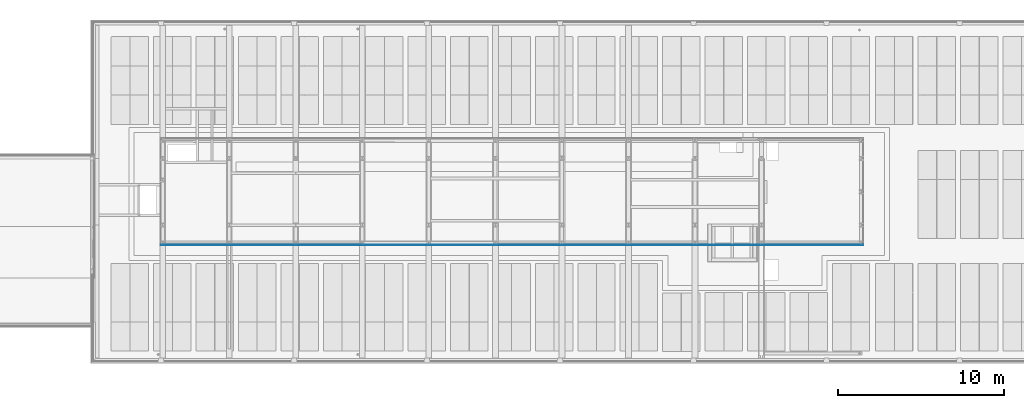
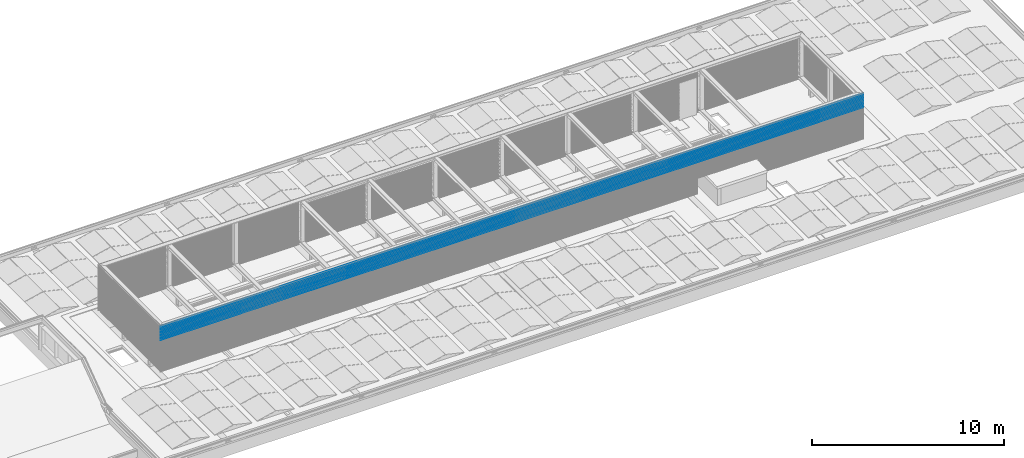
# One storey, part 36 of 63: 12 building element parts, 1 opening, 1 element without a shape of its own.
"""IFC2X3 building model written with IfcOpenShell, lengths in millimetres."""

from ifc_helpers import new_model, entity, si_unit, converted_unit, derived_unit, money_unit, direction, frame, origin_with_axes, place, context, subcontext, project, spatial, faceted_brep, material, type_object, element, aggregate, save


model = new_model("IFC2X3")

# Units and contexts
model_context = context("Model", 3, precision=0.01, world=origin_with_axes(), true_north=direction((0.0, 1.0)))
body_context = subcontext(model_context, "Body", "Model", "MODEL_VIEW")
ifc_project = project(units=[si_unit("LENGTHUNIT", "METRE", prefix="MILLI"), si_unit("AREAUNIT", "SQUARE_METRE"), si_unit("VOLUMEUNIT", "CUBIC_METRE"), converted_unit("PLANEANGLEUNIT", "DEGREE", entity("IfcPlaneAngleMeasure", 0.0174532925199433), si_unit("PLANEANGLEUNIT", "RADIAN"), dimensions=[0, 0, 0, 0, 0, 0, 0]), money_unit("EUR"), converted_unit("TIMEUNIT", "Year", entity("IfcTimeMeasure", 31557600.0), si_unit("TIMEUNIT", "SECOND"), dimensions=[0, 0, 1, 0, 0, 0, 0]), si_unit("MASSUNIT", "GRAM", prefix="KILO"), si_unit("THERMODYNAMICTEMPERATUREUNIT", "DEGREE_CELSIUS"), si_unit("LUMINOUSINTENSITYUNIT", "LUMEN"), si_unit("ENERGYUNIT", "JOULE", prefix="MEGA"), derived_unit("THERMALCONDUCTANCEUNIT", [(si_unit("POWERUNIT", "WATT"), 1), (si_unit("LENGTHUNIT", "METRE"), -1), (si_unit("THERMODYNAMICTEMPERATUREUNIT", "KELVIN"), -1)]), derived_unit("SPECIFICHEATCAPACITYUNIT", [(si_unit("ENERGYUNIT", "JOULE"), 1), (si_unit("MASSUNIT", "GRAM", prefix="KILO"), -1), (si_unit("THERMODYNAMICTEMPERATUREUNIT", "KELVIN"), -1)]), derived_unit("MASSDENSITYUNIT", [(si_unit("MASSUNIT", "GRAM", prefix="KILO"), 1), (si_unit("VOLUMEUNIT", "CUBIC_METRE"), -1)])], contexts=[model_context])

# Site, building, storey
site_placement = place(None, origin_with_axes())
site = spatial("IfcSite", under=ifc_project, at=site_placement, Name="<site naam>", CompositionType="ELEMENT")
building_placement = place(site_placement, origin_with_axes())
building = spatial("IfcBuilding", under=site, at=building_placement, Name="<Naam gebouw>", CompositionType="ELEMENT")
storey_placement = place(building_placement, frame((0.0, 0.0, 12770.0), z_axis=(0.0, 0.0, 1.0), x_axis=(1.0, 0.0, 0.0)))
storey = spatial("IfcBuildingStorey", under=building, at=storey_placement, Name="04 4e verdieping", CompositionType="ELEMENT", Elevation=12770.0)

# Wall, opening, building element parts
wall_type = type_object("IfcWallType", Name="Gevelbeplating golf 18 x 2900", PredefinedType="NOTDEFINED")
wall_placement = place(storey_placement, frame((15871.99992141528, 6781.999921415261, 299.9552842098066), z_axis=(0.0, 0.0, 1.0), x_axis=(1.0, 0.0, 0.0)))
wall = element("IfcWall", 1, at=wall_placement, inside=storey, type_object=wall_type, Name="47_Binnenwand_Gevelbeplating")
opening_placement = place(wall_placement, frame((-15871.99992141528, -6781.999921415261, -13069.95528420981), z_axis=(0.0, 0.0, 1.0), x_axis=(1.0, 0.0, 0.0)))
element("IfcOpeningElement", 2, at=opening_placement, cuts=wall, Name="47_Opening_", context=body_context, shape_type="Brep", body=[
    faceted_brep([(48150.00001112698, 6763.99976424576, 12770.0), (48150.00001112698, 6763.99976424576, 14059.65145375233), (48150.00001112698, 6818.000000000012, 14059.65145375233), (48150.00001112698, 6818.000000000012, 12770.0), (51850.00001112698, 6763.99976424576, 12770.0), (51850.00001112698, 6763.99976424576, 14059.65145375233), (51850.00001112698, 6818.000000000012, 14059.65145375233), (51850.00001112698, 6818.000000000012, 12770.0)], [[[0, 1, 2, 3]], [[0, 4, 5, 1]], [[1, 5, 6, 2]], [[3, 2, 6, 7]], [[4, 0, 3, 7]], [[5, 4, 7, 6]]]),
])
ifc_material = material(Name="gevelafwerking type 3 - Aluminium RAL1036")
building_element_part_1_placement = place(wall_placement, origin_with_axes())
building_element_part_1 = element("IfcBuildingElementPart", 3, at=building_element_part_1_placement, material=ifc_material, Name="gevelafwerking type 3 - Aluminium RAL1036", context=body_context, shape_type="Brep", body=[
    faceted_brep([(42241.45598688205, 15.62920810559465, 2041.315511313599), (14.54417028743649, 15.62920810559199, 2041.315511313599), (14.77512824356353, 15.6999434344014, 2041.634302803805), (16.99992737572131, 17.99994522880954, 2051.999989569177), (42239.00022979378, 17.99994522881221, 2051.999989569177), (42241.22502892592, 15.69994343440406, 2041.634302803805), (8.209467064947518, 9.041528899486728, 2032.575878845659), (8.55516305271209, 9.398062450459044, 2033.048878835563), (42247.44499411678, 9.39806245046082, 2033.048878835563), (42247.79069010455, 9.041528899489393, 2032.575878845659), (14.77512824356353, 14.77514232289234, 2041.634302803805), (8.55516305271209, 8.55519784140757, 2033.048878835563), (16.99992737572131, 16.99994284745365, 2051.999989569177), (42239.00022979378, 16.99994284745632, 2051.999989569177), (42241.22502892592, 14.77514232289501, 2041.634302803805), (42247.44499411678, 8.555197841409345, 2033.048878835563), (2.257284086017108, 3.340064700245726, 2024.431779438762), (2.257284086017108, 2.257303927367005, 2024.431779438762), (42253.74287308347, 2.257303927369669, 2024.431779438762), (42253.74287308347, 3.340064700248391, 2024.431779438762), (2.188157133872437, 3.116423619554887, 2024.112325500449), (42253.81200003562, 3.116423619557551, 2024.112325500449), (-5.474286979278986e-05, 0.9999452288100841, 2014.000019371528), (-5.474286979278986e-05, -5.477119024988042e-05, 2014.000019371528), (42256.00021191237, -5.477118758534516e-05, 2014.000019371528), (42256.00021191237, 0.9999452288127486, 2014.000019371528)], [[[0, 1, 2, 3, 4, 5]], [[6, 7, 1, 0, 8, 9]], [[10, 2, 1, 7, 11]], [[12, 3, 2, 10]], [[4, 3, 12, 13]], [[14, 5, 4, 13]], [[15, 8, 0, 5, 14]], [[11, 7, 6, 16, 17]], [[18, 19, 9, 8, 15]], [[20, 16, 6, 9, 19, 21]], [[14, 10, 11, 15]], [[13, 12, 10, 14]], [[17, 16, 20, 22, 23]], [[15, 11, 17, 18]], [[24, 25, 21, 19, 18]], [[25, 22, 20, 21]], [[24, 23, 22, 25]], [[18, 17, 23, 24]]]),
])
building_element_part_2_placement = place(wall_placement, origin_with_axes())
building_element_part_2 = element("IfcBuildingElementPart", 4, at=building_element_part_2_placement, material=ifc_material, Name="gevelafwerking type 3 - Aluminium RAL1036", context=body_context, shape_type="Brep", body=[
    faceted_brep([(42241.45600631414, 15.6292057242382, 2117.315511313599), (14.54415085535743, 15.62920572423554, 2117.315511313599), (14.77512824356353, 15.69994700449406, 2117.63432962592), (16.99992737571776, 17.99994284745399, 2128.000016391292), (42239.00022979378, 17.99994284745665, 2128.000016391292), (42241.22502892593, 15.69994700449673, 2117.63432962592), (8.209447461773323, 9.041526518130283, 2108.57587884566), (8.55516305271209, 9.398080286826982, 2109.048905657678), (42247.44499411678, 9.398080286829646, 2109.048905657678), (42247.79070970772, 9.041526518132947, 2108.57587884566), (14.77512824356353, 14.77513994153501, 2117.63432962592), (8.55516305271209, 8.555195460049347, 2109.048905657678), (16.99992737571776, 16.99994046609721, 2128.000016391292), (42239.00022979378, 16.99994046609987, 2128.000016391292), (42241.22502892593, 14.77513994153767, 2117.63432962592), (42247.44499411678, 8.555195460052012, 2109.048905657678), (2.257284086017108, 3.340081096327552, 2100.431806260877), (2.257284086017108, 2.257301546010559, 2100.431806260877), (42253.74287308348, 2.257301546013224, 2100.431806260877), (42253.74287308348, 3.340081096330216, 2100.431806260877), (2.188150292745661, 3.116421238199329, 2100.112325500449), (42253.81200687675, 3.116421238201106, 2100.112325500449), (-9.795628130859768e-05, 0.9999428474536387, 2090.000002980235), (-9.795628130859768e-05, -5.715254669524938e-05, 2090.000002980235), (42256.00025512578, -5.715254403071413e-05, 2090.000002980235), (42256.00025512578, 0.9999428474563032, 2090.000002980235)], [[[0, 1, 2, 3, 4, 5]], [[6, 7, 1, 0, 8, 9]], [[10, 2, 1, 7, 11]], [[12, 3, 2, 10]], [[4, 3, 12, 13]], [[14, 5, 4, 13]], [[15, 8, 0, 5, 14]], [[11, 7, 6, 16, 17]], [[18, 19, 9, 8, 15]], [[20, 16, 6, 9, 19, 21]], [[14, 10, 11, 15]], [[13, 12, 10, 14]], [[17, 16, 20, 22, 23]], [[15, 11, 17, 18]], [[24, 25, 21, 19, 18]], [[25, 22, 20, 21]], [[24, 23, 22, 25]], [[18, 17, 23, 24]]]),
])
building_element_part_3_placement = place(wall_placement, origin_with_axes())
building_element_part_3 = element("IfcBuildingElementPart", 5, at=building_element_part_3_placement, material=ifc_material, Name="gevelafwerking type 3 - Aluminium RAL1036", context=body_context, shape_type="Brep", body=[
    faceted_brep([(42241.45598256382, 15.6292009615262, 2269.315511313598), (14.54417460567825, 15.62920096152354, 2269.315511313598), (14.77512824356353, 15.69993496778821, 2269.634296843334), (16.99992737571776, 17.9999380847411, 2279.999983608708), (42239.00022979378, 17.99993808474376, 2279.999983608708), (42241.22502892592, 15.69993496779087, 2269.634296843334), (8.209471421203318, 9.04152175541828, 2260.575878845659), (8.55516305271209, 9.398050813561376, 2261.048872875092), (42247.44499411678, 9.39805081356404, 2261.048872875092), (42247.79068574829, 9.041521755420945, 2260.575878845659), (14.77512824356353, 14.77513517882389, 2269.634296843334), (8.55516305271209, 8.555190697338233, 2261.048872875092), (16.99992737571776, 16.9999357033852, 2279.999983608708), (42239.00022979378, 16.99993570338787, 2279.999983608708), (42241.22502892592, 14.77513517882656, 2269.634296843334), (42247.44499411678, 8.555190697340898, 2261.048872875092), (2.257284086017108, 3.34005338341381, 2252.431773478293), (2.257284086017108, 2.257296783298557, 2252.431773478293), (42253.74287308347, 2.257296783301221, 2252.431773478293), (42253.74287308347, 3.340053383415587, 2252.431773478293), (2.188152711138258, 3.116416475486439, 2252.112325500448), (42253.81199978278, 3.116416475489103, 2252.112325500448), (-9.328071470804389e-05, 0.9999380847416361, 2242.000013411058), (-9.328071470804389e-05, -6.19152586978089e-05, 2242.000013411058), (42256.00025045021, -6.191525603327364e-05, 2242.000013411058), (42256.00025045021, 0.9999380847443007, 2242.000013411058)], [[[0, 1, 2, 3, 4, 5]], [[6, 7, 1, 0, 8, 9]], [[10, 2, 1, 7, 11]], [[12, 3, 2, 10]], [[4, 3, 12, 13]], [[14, 5, 4, 13]], [[15, 8, 0, 5, 14]], [[11, 7, 6, 16, 17]], [[18, 19, 9, 8, 15]], [[20, 16, 6, 9, 19, 21]], [[14, 10, 11, 15]], [[13, 12, 10, 14]], [[17, 16, 20, 22, 23]], [[15, 11, 17, 18]], [[24, 25, 21, 19, 18]], [[25, 22, 20, 21]], [[24, 23, 22, 25]], [[18, 17, 23, 24]]]),
])
building_element_part_4_placement = place(wall_placement, origin_with_axes())
building_element_part_4 = element("IfcBuildingElementPart", 6, at=building_element_part_4_placement, material=ifc_material, Name="gevelafwerking type 3 - Aluminium RAL1036", context=body_context, shape_type="Brep", body=[
    faceted_brep([(42241.45599443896, 15.62920334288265, 2193.315511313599), (14.54416273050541, 15.62920334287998, 2193.315511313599), (14.77512824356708, 15.69994098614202, 2193.634313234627), (16.99992737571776, 17.99994046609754, 2203.999999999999), (42239.00022979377, 17.99994046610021, 2203.999999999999), (42241.22502892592, 15.6999409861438, 2193.634313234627), (8.209459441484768, 9.041524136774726, 2184.575878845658), (8.55516305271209, 9.398065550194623, 2185.048889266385), (42247.44499411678, 9.3980655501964, 2185.048889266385), (42247.79069772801, 9.04152413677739, 2184.575878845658), (14.77512824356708, 14.77513756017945, 2193.634313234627), (8.55516305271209, 8.555193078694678, 2185.048889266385), (16.99992737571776, 16.99993808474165, 2203.999999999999), (42239.00022979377, 16.99993808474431, 2203.999999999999), (42241.22502892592, 14.77513756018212, 2193.634313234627), (42247.44499411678, 8.555193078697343, 2185.048889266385), (2.257284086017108, 3.340067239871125, 2176.431789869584), (2.257284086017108, 2.257299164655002, 2176.431789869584), (42253.74287308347, 2.257299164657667, 2176.431789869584), (42253.74287308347, 3.34006723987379, 2176.431789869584), (2.188153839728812, 3.116418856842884, 2176.112325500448), (42253.81200332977, 3.116418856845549, 2176.112325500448), (-9.795628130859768e-05, 0.9999404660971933, 2165.999986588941), (-9.795628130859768e-05, -5.953390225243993e-05, 2165.999986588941), (42256.00025512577, -5.953389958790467e-05, 2165.999986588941), (42256.00025512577, 0.9999404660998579, 2165.999986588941)], [[[0, 1, 2, 3, 4, 5]], [[6, 7, 1, 0, 8, 9]], [[10, 2, 1, 7, 11]], [[12, 3, 2, 10]], [[4, 3, 12, 13]], [[14, 5, 4, 13]], [[15, 8, 0, 5, 14]], [[11, 7, 6, 16, 17]], [[18, 19, 9, 8, 15]], [[20, 16, 6, 9, 19, 21]], [[14, 10, 11, 15]], [[13, 12, 10, 14]], [[17, 16, 20, 22, 23]], [[15, 11, 17, 18]], [[24, 25, 21, 19, 18]], [[25, 22, 20, 21]], [[24, 23, 22, 25]], [[18, 17, 23, 24]]]),
])
building_element_part_5_placement = place(wall_placement, origin_with_axes())
building_element_part_5 = element("IfcBuildingElementPart", 7, at=building_element_part_5_placement, material=ifc_material, Name="gevelafwerking type 3 - Aluminium RAL1036", context=body_context, shape_type="Brep", body=[
    faceted_brep([(42241.4560019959, 15.62919858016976, 2345.315511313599), (14.54415517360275, 15.62919858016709, 2345.315511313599), (14.77512824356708, 15.69993853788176, 2345.63432366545), (16.99992737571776, 17.99993570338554, 2356.000010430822), (42239.00022979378, 17.9999357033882, 2356.000010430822), (42241.22502892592, 15.69993853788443, 2345.63432366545), (8.209451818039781, 9.041519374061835, 2336.575878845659), (8.55516305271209, 9.39806864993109, 2337.048899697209), (42247.44499411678, 9.398068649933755, 2337.048899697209), (42247.79070535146, 9.0415193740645, 2336.575878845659), (14.77512824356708, 14.77513279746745, 2345.63432366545), (8.55516305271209, 8.555188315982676, 2337.048899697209), (16.99992737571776, 16.99993332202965, 2356.000010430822), (42239.00022979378, 16.99993332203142, 2356.000010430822), (42241.22502892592, 14.77513279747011, 2345.63432366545), (42247.44499411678, 8.55518831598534, 2337.048899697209), (2.257284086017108, 3.340069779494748, 2328.431800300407), (2.257284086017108, 2.257294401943, 2328.431800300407), (42253.74287308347, 2.257294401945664, 2328.431800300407), (42253.74287308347, 3.340069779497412, 2328.431800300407), (2.188151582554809, 3.116414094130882, 2328.112325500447), (42253.81200558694, 3.116414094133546, 2328.112325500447), (-9.795628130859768e-05, 0.9999357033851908, 2317.999997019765), (-9.795628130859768e-05, -6.429661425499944e-05, 2317.999997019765), (42256.00025512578, -6.42966124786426e-05, 2317.999997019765), (42256.00025512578, 0.9999357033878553, 2317.999997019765)], [[[0, 1, 2, 3, 4, 5]], [[6, 7, 1, 0, 8, 9]], [[10, 2, 1, 7, 11]], [[12, 3, 2, 10]], [[4, 3, 12, 13]], [[14, 5, 4, 13]], [[15, 8, 0, 5, 14]], [[11, 7, 6, 16, 17]], [[18, 19, 9, 8, 15]], [[20, 16, 6, 9, 19, 21]], [[14, 10, 11, 15]], [[13, 12, 10, 14]], [[17, 16, 20, 22, 23]], [[15, 11, 17, 18]], [[24, 25, 21, 19, 18]], [[25, 22, 20, 21]], [[24, 23, 22, 25]], [[18, 17, 23, 24]]]),
])
building_element_part_6_placement = place(wall_placement, origin_with_axes())
building_element_part_6 = element("IfcBuildingElementPart", 8, at=building_element_part_6_placement, material=ifc_material, Name="gevelafwerking type 3 - Aluminium RAL1036", context=body_context, shape_type="Brep", body=[
    faceted_brep([(42241.45599012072, 15.6291961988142, 2421.315511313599), (14.54416704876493, 15.62919619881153, 2421.315511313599), (14.77512824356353, 15.69993251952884, 2421.634307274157), (16.99992737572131, 17.99993332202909, 2431.999994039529), (42239.00022979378, 17.99993332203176, 2431.999994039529), (42241.22502892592, 15.6999325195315, 2421.634307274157), (8.209463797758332, 9.041516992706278, 2412.57587884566), (8.55516305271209, 9.398053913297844, 2413.048883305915), (42247.44499411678, 9.398053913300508, 2413.048883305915), (42247.79069337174, 9.041516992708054, 2412.57587884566), (14.77512824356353, 14.77513041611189, 2421.634307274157), (8.55516305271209, 8.55518593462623, 2413.048883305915), (16.99992737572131, 16.9999309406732, 2431.999994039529), (42239.00022979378, 16.99993094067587, 2431.999994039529), (42241.22502892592, 14.77513041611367, 2421.634307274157), (42247.44499411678, 8.555185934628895, 2413.048883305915), (2.257284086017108, 3.340055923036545, 2404.431783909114), (2.257284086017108, 2.257292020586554, 2404.431783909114), (42253.74287308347, 2.257292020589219, 2404.431783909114), (42253.74287308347, 3.340055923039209, 2404.431783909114), (2.188155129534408, 3.116411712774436, 2404.112325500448), (42253.81200203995, 3.116411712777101, 2404.112325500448), (-9.795628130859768e-05, 0.9999333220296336, 2393.999980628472), (-9.795628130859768e-05, -6.66779707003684e-05, 2393.999980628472), (42256.00025512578, -6.667796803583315e-05, 2393.999980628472), (42256.00025512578, 0.9999333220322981, 2393.999980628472)], [[[0, 1, 2, 3, 4, 5]], [[6, 7, 1, 0, 8, 9]], [[10, 2, 1, 7, 11]], [[12, 3, 2, 10]], [[4, 3, 12, 13]], [[14, 5, 4, 13]], [[15, 8, 0, 5, 14]], [[11, 7, 6, 16, 17]], [[18, 19, 9, 8, 15]], [[20, 16, 6, 9, 19, 21]], [[14, 10, 11, 15]], [[13, 12, 10, 14]], [[17, 16, 20, 22, 23]], [[15, 11, 17, 18]], [[24, 25, 21, 19, 18]], [[25, 22, 20, 21]], [[24, 23, 22, 25]], [[18, 17, 23, 24]]]),
])
building_element_part_7_placement = place(wall_placement, origin_with_axes())
building_element_part_7 = element("IfcBuildingElementPart", 9, at=building_element_part_7_placement, material=ifc_material, Name="gevelafwerking type 3 - Aluminium RAL1036", context=body_context, shape_type="Brep", body=[
    faceted_brep([(42241.45600955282, 15.62919381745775, 2497.3155113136), (14.54414761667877, 15.62919381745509, 2497.3155113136), (14.77512824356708, 15.69993608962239, 2497.634334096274), (16.99992737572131, 17.99993094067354, 2508.000020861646), (42239.00022979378, 17.9999309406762, 2508.000020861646), (42241.22502892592, 15.69993608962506, 2497.634334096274), (8.20944419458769, 9.041514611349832, 2488.57587884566), (8.555163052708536, 9.39807174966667, 2489.04891012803), (42247.44499411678, 9.398071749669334, 2489.04891012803), (42247.79071297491, 9.041514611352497, 2488.57587884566), (14.77512824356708, 14.77512803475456, 2497.634334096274), (8.555163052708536, 8.555183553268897, 2489.04891012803), (16.99992737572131, 16.99992855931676, 2508.000020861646), (42239.00022979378, 16.99992855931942, 2508.000020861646), (42241.22502892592, 14.77512803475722, 2497.634334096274), (42247.44499411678, 8.555183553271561, 2489.04891012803), (2.257284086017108, 3.340072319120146, 2480.431810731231), (2.257284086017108, 2.257289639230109, 2480.431810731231), (42253.74287308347, 2.257289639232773, 2480.431810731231), (42253.74287308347, 3.340072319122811, 2480.431810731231), (2.188149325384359, 3.116409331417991, 2480.112325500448), (42253.81200784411, 3.116409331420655, 2480.112325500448), (-9.795628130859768e-05, 0.9999309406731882, 2470.000007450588), (-9.795628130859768e-05, -6.905932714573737e-05, 2470.000007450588), (42256.00025512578, -6.905932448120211e-05, 2470.000007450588), (42256.00025512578, 0.9999309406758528, 2470.000007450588)], [[[0, 1, 2, 3, 4, 5]], [[6, 7, 1, 0, 8, 9]], [[10, 2, 1, 7, 11]], [[12, 3, 2, 10]], [[4, 3, 12, 13]], [[14, 5, 4, 13]], [[15, 8, 0, 5, 14]], [[11, 7, 6, 16, 17]], [[18, 19, 9, 8, 15]], [[20, 16, 6, 9, 19, 21]], [[14, 10, 11, 15]], [[13, 12, 10, 14]], [[17, 16, 20, 22, 23]], [[15, 11, 17, 18]], [[24, 25, 21, 19, 18]], [[25, 22, 20, 21]], [[24, 23, 22, 25]], [[18, 17, 23, 24]]]),
])
building_element_part_8_placement = place(wall_placement, origin_with_axes())
building_element_part_8 = element("IfcBuildingElementPart", 10, at=building_element_part_8_placement, material=ifc_material, Name="gevelafwerking type 3 - Aluminium RAL1036", context=body_context, shape_type="Brep", body=[
    faceted_brep([(42241.4560392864, 15.62919143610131, 2573.315511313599), (14.54411788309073, 15.62919143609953, 2573.315511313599), (14.77508503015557, 15.69993007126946, 2573.634317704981), (16.9998841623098, 17.99992855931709, 2584.000004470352), (42239.00027300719, 17.99992855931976, 2584.000004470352), (42241.22507213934, 15.69993007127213, 2573.634317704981), (8.20945617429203, 9.041512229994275, 2564.575878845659), (8.55516305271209, 9.3980570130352, 2565.048893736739), (42247.44499411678, 9.398057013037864, 2565.048893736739), (42247.7907009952, 9.04151222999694, 2564.575878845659), (14.77508503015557, 14.775125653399, 2573.634317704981), (8.55516305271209, 8.555181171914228, 2565.048893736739), (16.9998841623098, 16.9999261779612, 2584.000004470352), (42239.00027300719, 16.99992617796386, 2584.000004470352), (42241.22507213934, 14.77512565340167, 2573.634317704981), (42247.44499411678, 8.555181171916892, 2565.048893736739), (2.257284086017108, 3.34005846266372, 2556.431794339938), (2.257284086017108, 2.257287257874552, 2556.431794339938), (42253.74287308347, 2.257287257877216, 2556.431794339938), (42253.74287308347, 3.340058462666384, 2556.431794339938), (2.188152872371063, 3.116406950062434, 2556.112325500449), (42253.81200429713, 3.116406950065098, 2556.112325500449), (-9.795628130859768e-05, 0.9999285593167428, 2545.999991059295), (-9.795628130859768e-05, -7.144068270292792e-05, 2545.999991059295), (42256.00025512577, -7.144068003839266e-05, 2545.999991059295), (42256.00025512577, 0.9999285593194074, 2545.999991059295)], [[[0, 1, 2, 3, 4, 5]], [[6, 7, 1, 0, 8, 9]], [[10, 2, 1, 7, 11]], [[12, 3, 2, 10]], [[4, 3, 12, 13]], [[14, 5, 4, 13]], [[15, 8, 0, 5, 14]], [[11, 7, 6, 16, 17]], [[18, 19, 9, 8, 15]], [[20, 16, 6, 9, 19, 21]], [[14, 10, 11, 15]], [[13, 12, 10, 14]], [[17, 16, 20, 22, 23]], [[15, 11, 17, 18]], [[24, 25, 21, 19, 18]], [[25, 22, 20, 21]], [[24, 23, 22, 25]], [[18, 17, 23, 24]]]),
])
building_element_part_9_placement = place(wall_placement, origin_with_axes())
building_element_part_9 = element("IfcBuildingElementPart", 11, at=building_element_part_9_placement, material=ifc_material, Name="gevelafwerking type 3 - Aluminium RAL1036", context=body_context, shape_type="Brep", body=[
    faceted_brep([(14652.39401144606, 16.09848063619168, 2651.430524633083), (18235.66988159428, 15.62918905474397, 2649.315511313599), (14.54412975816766, 15.62918905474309, 2649.315511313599), (14.77508503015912, 15.69992405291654, 2649.634301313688), (16.9998841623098, 17.99992617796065, 2659.99998807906), (42239.00027300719, 17.99992617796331, 2659.99998807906), (42241.22507213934, 15.6999240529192, 2649.634301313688), (42241.45602741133, 15.62918905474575, 2649.315511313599), (20127.98570465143, 15.62918905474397, 2649.315511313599), (20127.98576611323, 16.09848063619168, 2651.430524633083), (20127.98567219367, 15.38135776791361, 2648.986722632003), (20127.98567219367, 15.38135776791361, 2651.430524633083), (42247.44499411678, 9.398042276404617, 2641.048877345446), (42247.79068901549, 9.041509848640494, 2640.57587884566), (8.20946815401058, 9.04150984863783, 2640.57587884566), (8.55516305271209, 9.398042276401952, 2641.048877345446), (14.77508503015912, 14.77512327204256, 2649.634301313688), (8.55516305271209, 8.555178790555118, 2641.048877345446), (16.9998841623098, 16.99992379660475, 2659.99998807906), (42239.00027300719, 16.99992379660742, 2659.99998807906), (42241.22507213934, 14.77512327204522, 2649.634301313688), (42247.44499411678, 8.555178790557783, 2641.048877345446), (42253.74287308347, 2.257284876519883, 2632.431777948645), (42253.74287308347, 3.340044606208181, 2632.431777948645), (2.188151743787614, 3.116404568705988, 2632.112325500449), (2.257284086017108, 3.340044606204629, 2632.431777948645), (42253.81200075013, 3.116404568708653, 2632.112325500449), (2.257284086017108, 2.257284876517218, 2632.431777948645), (42256.0002504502, -7.382203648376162e-05, 2622.00001788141), (42256.0002504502, 0.9999261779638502, 2622.00001788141), (-9.328071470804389e-05, 0.9999261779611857, 2622.00001788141), (-9.328071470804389e-05, -7.382203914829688e-05, 2622.00001788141)], [[[0, 1, 2, 3, 4, 5, 6, 7, 8, 9]], [[10, 1, 0, 11]], [[10, 8, 7, 12, 13, 14, 15, 2, 1]], [[16, 3, 2, 15, 17]], [[18, 4, 3, 16]], [[5, 4, 18, 19]], [[20, 6, 5, 19]], [[21, 12, 7, 6, 20]], [[9, 8, 10, 11]], [[0, 9, 11]], [[22, 23, 13, 12, 21]], [[24, 25, 14, 13, 23, 26]], [[17, 15, 14, 25, 27]], [[20, 16, 17, 21]], [[19, 18, 16, 20]], [[28, 29, 26, 23, 22]], [[21, 17, 27, 22]], [[27, 25, 24, 30, 31]], [[29, 30, 24, 26]], [[28, 31, 30, 29]], [[22, 27, 31, 28]]]),
])
building_element_part_10_placement = place(wall_placement, origin_with_axes())
building_element_part_10 = element("IfcBuildingElementPart", 12, at=building_element_part_10_placement, material=ifc_material, Name="gevelafwerking type 3 - Aluminium RAL1036", context=body_context, shape_type="Brep", body=[
    faceted_brep([(42241.45604684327, 15.62918905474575, 2725.315511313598), (14.54411032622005, 15.62918905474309, 2725.315511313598), (14.77508503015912, 15.69993000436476, 2725.634328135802), (16.9998841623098, 17.99992617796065, 2736.000014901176), (42239.00027300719, 17.99992617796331, 2736.000014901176), (42241.22507213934, 15.69993000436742, 2725.634328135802), (8.209448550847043, 9.04150984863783, 2716.575878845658), (8.55516305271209, 9.398062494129, 2717.048904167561), (42247.44499411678, 9.398062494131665, 2717.048904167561), (42247.79070861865, 9.041509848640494, 2716.575878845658), (14.77508503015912, 14.77512327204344, 2725.634328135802), (8.55516305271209, 8.555178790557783, 2717.048904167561), (16.9998841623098, 16.99992379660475, 2736.000014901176), (42239.00027300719, 16.99992379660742, 2736.000014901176), (42241.22507213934, 14.77512327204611, 2725.634328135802), (42247.44499411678, 8.555178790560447, 2717.048904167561), (2.257284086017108, 3.340063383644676, 2708.431804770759), (2.257284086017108, 2.257284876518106, 2708.431804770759), (42253.74287308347, 2.257284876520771, 2708.431804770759), (42253.74287308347, 3.34006338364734, 2708.431804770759), (2.188150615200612, 3.116404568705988, 2708.112325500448), (42253.8120065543, 3.116404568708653, 2708.112325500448), (-9.795628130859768e-05, 0.9999261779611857, 2698.000001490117), (-9.795628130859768e-05, -7.382203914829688e-05, 2698.000001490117), (42256.00025512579, -7.382203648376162e-05, 2698.000001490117), (42256.00025512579, 0.9999261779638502, 2698.000001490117)], [[[0, 1, 2, 3, 4, 5]], [[6, 7, 1, 0, 8, 9]], [[10, 2, 1, 7, 11]], [[12, 3, 2, 10]], [[4, 3, 12, 13]], [[14, 5, 4, 13]], [[15, 8, 0, 5, 14]], [[11, 7, 6, 16, 17]], [[18, 19, 9, 8, 15]], [[20, 16, 6, 9, 19, 21]], [[14, 10, 11, 15]], [[13, 12, 10, 14]], [[17, 16, 20, 22, 23]], [[15, 11, 17, 18]], [[24, 25, 21, 19, 18]], [[25, 22, 20, 21]], [[24, 23, 22, 25]], [[18, 17, 23, 24]]]),
])
building_element_part_11_placement = place(wall_placement, origin_with_axes())
building_element_part_11 = element("IfcBuildingElementPart", 13, at=building_element_part_11_placement, material=ifc_material, Name="gevelafwerking type 3 - Aluminium RAL1036", context=body_context, shape_type="Brep", body=[
    faceted_brep([(42241.45603496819, 15.62918667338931, 2801.315511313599), (14.54412220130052, 15.62918667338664, 2801.315511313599), (14.77508503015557, 15.69992398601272, 2801.634311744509), (16.9998841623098, 17.99992379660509, 2811.999998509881), (42239.00027300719, 17.99992379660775, 2811.999998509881), (42241.22507213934, 15.69992398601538, 2801.634311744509), (8.209460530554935, 9.041507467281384, 2792.575878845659), (8.55516305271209, 9.398047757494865, 2793.048887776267), (42247.44499411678, 9.39804775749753, 2793.048887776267), (42247.79069663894, 9.041507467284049, 2792.575878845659), (14.77508503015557, 14.775120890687, 2801.634311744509), (8.55516305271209, 8.555176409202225, 2793.048887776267), (16.9998841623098, 16.9999214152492, 2811.999998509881), (42239.00027300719, 16.99992141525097, 2811.999998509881), (42241.22507213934, 14.77512089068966, 2801.634311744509), (42247.44499411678, 8.55517640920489, 2793.048887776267), (2.257284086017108, 3.340049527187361, 2784.431788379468), (2.257284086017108, 2.257282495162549, 2784.431788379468), (42253.74287308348, 2.257282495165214, 2784.431788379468), (42253.74287308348, 3.340049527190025, 2784.431788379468), (2.188154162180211, 3.116402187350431, 2784.112325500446), (42253.81200300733, 3.116402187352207, 2784.112325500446), (-9.795628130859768e-05, 0.9999237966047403, 2773.999985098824), (-9.795628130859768e-05, -7.620339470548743e-05, 2773.999985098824), (42256.00025512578, -7.620339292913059e-05, 2773.999985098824), (42256.00025512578, 0.9999237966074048, 2773.999985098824)], [[[0, 1, 2, 3, 4, 5]], [[6, 7, 1, 0, 8, 9]], [[10, 2, 1, 7, 11]], [[12, 3, 2, 10]], [[4, 3, 12, 13]], [[14, 5, 4, 13]], [[15, 8, 0, 5, 14]], [[11, 7, 6, 16, 17]], [[18, 19, 9, 8, 15]], [[20, 16, 6, 9, 19, 21]], [[14, 10, 11, 15]], [[13, 12, 10, 14]], [[17, 16, 20, 22, 23]], [[15, 11, 17, 18]], [[24, 25, 21, 19, 18]], [[25, 22, 20, 21]], [[24, 23, 22, 25]], [[18, 17, 23, 24]]]),
])
building_element_part_12_placement = place(wall_placement, origin_with_axes())
building_element_part_12 = element("IfcBuildingElementPart", 14, at=building_element_part_12_placement, material=ifc_material, Name="gevelafwerking type 3 - Aluminium RAL1036", context=body_context, shape_type="Brep", body=[
    faceted_brep([(42241.45602309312, 15.62918429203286, 2877.315511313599), (14.54413407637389, 15.62918429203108, 2877.315511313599), (14.77508503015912, 15.69991796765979, 2877.634295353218), (16.9998841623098, 17.99992141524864, 2887.99998211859), (42239.00027300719, 17.99992141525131, 2887.99998211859), (42241.22507213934, 15.69991796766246, 2877.634295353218), (8.209470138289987, 9.041505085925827, 2868.575878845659), (8.55516305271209, 9.39803302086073, 2869.048871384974), (42247.44499411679, 9.398033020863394, 2869.048871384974), (42247.79068703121, 9.041505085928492, 2868.575878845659), (14.77508503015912, 14.77511850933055, 2877.634295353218), (8.55516305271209, 8.555174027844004, 2869.048871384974), (16.9998841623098, 16.99991903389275, 2887.99998211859), (42239.00027300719, 16.99991903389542, 2887.99998211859), (42241.22507213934, 14.77511850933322, 2877.634295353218), (42247.44499411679, 8.555174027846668, 2869.048871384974), (2.257240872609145, 3.340035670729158, 2860.431771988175), (2.257240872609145, 2.257280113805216, 2860.431771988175), (42253.74291629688, 2.25728011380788, 2860.431771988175), (42253.74291629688, 3.340035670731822, 2860.431771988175), (2.1881155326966, 3.116399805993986, 2860.112325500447), (42253.8120416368, 3.11639980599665, 2860.112325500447), (-9.795628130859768e-05, 0.9999214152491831, 2850.00001192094), (-9.795628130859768e-05, -7.858475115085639e-05, 2850.00001192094), (42256.00025512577, -7.858474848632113e-05, 2850.00001192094), (42256.00025512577, 0.9999214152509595, 2850.00001192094)], [[[0, 1, 2, 3, 4, 5]], [[6, 7, 1, 0, 8, 9]], [[10, 2, 1, 7, 11]], [[12, 3, 2, 10]], [[4, 3, 12, 13]], [[14, 5, 4, 13]], [[15, 8, 0, 5, 14]], [[11, 7, 6, 16, 17]], [[18, 19, 9, 8, 15]], [[20, 16, 6, 9, 19, 21]], [[14, 10, 11, 15]], [[13, 12, 10, 14]], [[17, 16, 20, 22, 23]], [[15, 11, 17, 18]], [[24, 25, 21, 19, 18]], [[25, 22, 20, 21]], [[24, 23, 22, 25]], [[18, 17, 23, 24]]]),
])
aggregate(wall, [building_element_part_1, building_element_part_2, building_element_part_3, building_element_part_4, building_element_part_5, building_element_part_6, building_element_part_7, building_element_part_8, building_element_part_9, building_element_part_10, building_element_part_11, building_element_part_12])

save(model, "model.ifc")
